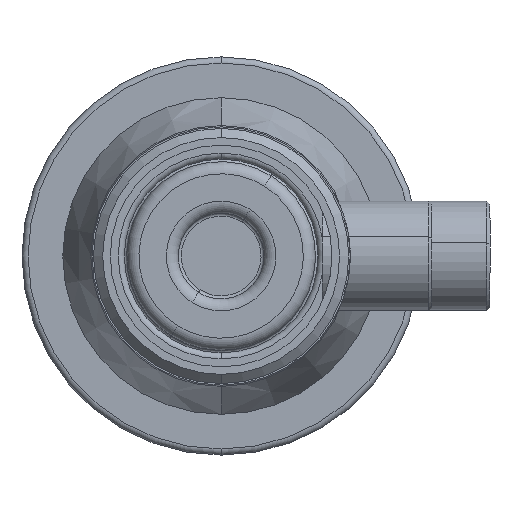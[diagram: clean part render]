
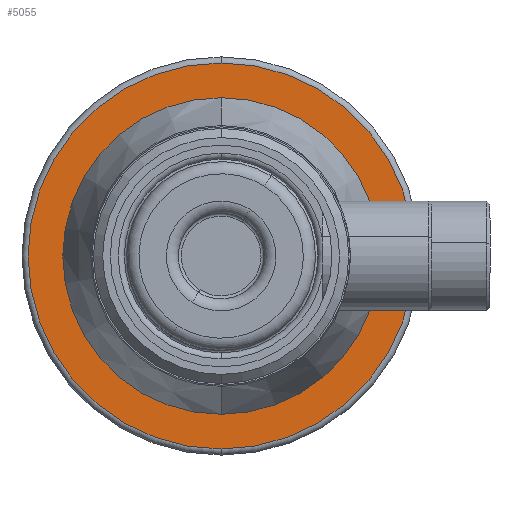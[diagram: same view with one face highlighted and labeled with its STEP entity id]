
A CAD part, front view. The second image highlights one B-rep face of the part: STEP entity #5055.
In plain terms, the highlighted planar face has unit normal (0, -1, 0).
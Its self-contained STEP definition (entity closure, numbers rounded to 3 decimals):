
#15 = CARTESIAN_POINT ( 'NONE',  ( 0., 3., 0. ) ) ;
#172 = CARTESIAN_POINT ( 'NONE',  ( 0., 3., 23.45 ) ) ;
#762 = CARTESIAN_POINT ( 'NONE',  ( 0., 3., -23.45 ) ) ;
#1839 = EDGE_CURVE ( 'NONE', #7015, #11951, #11190, .T. ) ;
#2139 = DIRECTION ( 'NONE',  ( 0., -1., 0. ) ) ;
#2145 = EDGE_CURVE ( 'NONE', #3900, #2244, #13938, .T. ) ;
#2244 = VERTEX_POINT ( 'NONE', #11407 ) ;
#2271 = CIRCLE ( 'NONE', #3821, 31.7 ) ;
#2556 = DIRECTION ( 'NONE',  ( 0., -1., 0. ) ) ;
#2817 = DIRECTION ( 'NONE',  ( 0., -1., 0. ) ) ;
#3562 = FACE_OUTER_BOUND ( 'NONE', #8750, .T. ) ;
#3570 = AXIS2_PLACEMENT_3D ( 'NONE', #12295, #2817, #8200 ) ;
#3779 = ORIENTED_EDGE ( 'NONE', *, *, #1839, .F. ) ;
#3821 = AXIS2_PLACEMENT_3D ( 'NONE', #5929, #4422, #10058 ) ;
#3900 = VERTEX_POINT ( 'NONE', #8054 ) ;
#4422 = DIRECTION ( 'NONE',  ( 0., -1., 0. ) ) ;
#5029 = FACE_BOUND ( 'NONE', #14009, .T. ) ;
#5055 = ADVANCED_FACE ( 'NONE', ( #3562, #5029 ), #6432, .T. ) ;
#5167 = CIRCLE ( 'NONE', #3570, 23.45 ) ;
#5929 = CARTESIAN_POINT ( 'NONE',  ( 0., 3., 0. ) ) ;
#6250 = AXIS2_PLACEMENT_3D ( 'NONE', #12780, #2139, #12840 ) ;
#6432 = PLANE ( 'NONE',  #16616 ) ;
#6568 = EDGE_CURVE ( 'NONE', #2244, #3900, #2271, .T. ) ;
#6588 = AXIS2_PLACEMENT_3D ( 'NONE', #15, #2556, #17486 ) ;
#6598 = ORIENTED_EDGE ( 'NONE', *, *, #9395, .F. ) ;
#7015 = VERTEX_POINT ( 'NONE', #172 ) ;
#8054 = CARTESIAN_POINT ( 'NONE',  ( 0., 3., -31.7 ) ) ;
#8200 = DIRECTION ( 'NONE',  ( 0., 0., -1. ) ) ;
#8750 = EDGE_LOOP ( 'NONE', ( #10897, #10616 ) ) ;
#9257 = DIRECTION ( 'NONE',  ( 0., -1., 0. ) ) ;
#9395 = EDGE_CURVE ( 'NONE', #11951, #7015, #5167, .T. ) ;
#9557 = DIRECTION ( 'NONE',  ( 0., 0., -1. ) ) ;
#10058 = DIRECTION ( 'NONE',  ( 0., 0., -1. ) ) ;
#10616 = ORIENTED_EDGE ( 'NONE', *, *, #6568, .T. ) ;
#10897 = ORIENTED_EDGE ( 'NONE', *, *, #2145, .T. ) ;
#11190 = CIRCLE ( 'NONE', #6588, 23.45 ) ;
#11407 = CARTESIAN_POINT ( 'NONE',  ( 0., 3., 31.7 ) ) ;
#11951 = VERTEX_POINT ( 'NONE', #762 ) ;
#12295 = CARTESIAN_POINT ( 'NONE',  ( 0., 3., 0. ) ) ;
#12780 = CARTESIAN_POINT ( 'NONE',  ( 0., 3., 0. ) ) ;
#12840 = DIRECTION ( 'NONE',  ( 0., 0., -1. ) ) ;
#13689 = CARTESIAN_POINT ( 'NONE',  ( 23.45, 3., 0. ) ) ;
#13938 = CIRCLE ( 'NONE', #6250, 31.7 ) ;
#14009 = EDGE_LOOP ( 'NONE', ( #6598, #3779 ) ) ;
#16616 = AXIS2_PLACEMENT_3D ( 'NONE', #13689, #9257, #9557 ) ;
#17486 = DIRECTION ( 'NONE',  ( 0., 0., -1. ) ) ;
